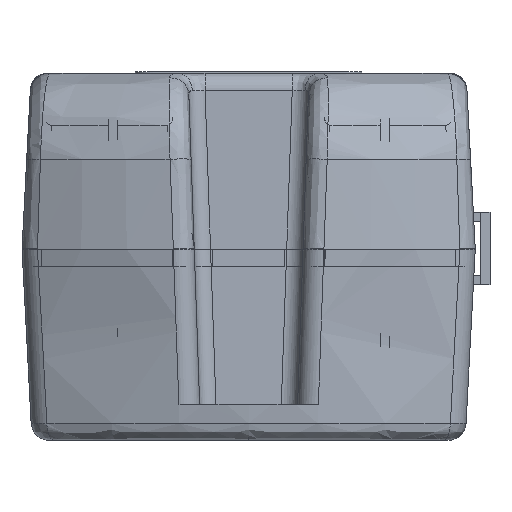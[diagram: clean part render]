
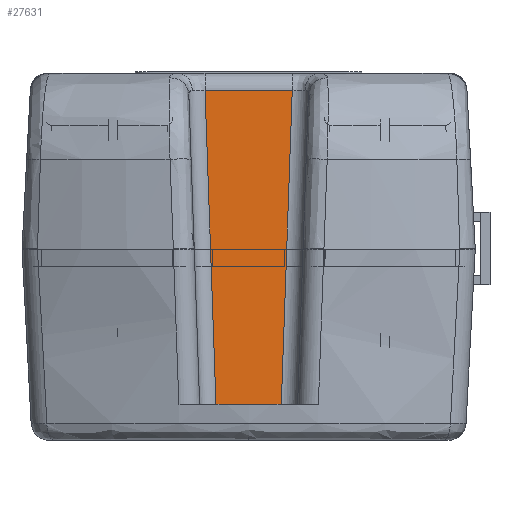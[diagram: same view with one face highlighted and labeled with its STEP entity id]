
A CAD part, left-side view. The second image highlights one B-rep face of the part: STEP entity #27631.
In plain terms, the highlighted planar face has unit normal (-0.999, 0, 0.035).
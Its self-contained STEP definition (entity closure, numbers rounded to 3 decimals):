
#6017=CARTESIAN_POINT('',(3.902,-3.601,4.));
#6025=DIRECTION('',(0.035,-0.035,0.999));
#6026=VECTOR('',#6025,34.612);
#6027=CARTESIAN_POINT('',(3.902,-3.601,4.));
#6028=LINE('',#6027,#6026);
#6050=DIRECTION('',(0.,-1.,0.));
#6051=VECTOR('',#6050,9.622);
#6052=CARTESIAN_POINT('',(5.11,4.811,38.57));
#6053=LINE('',#6052,#6051);
#6054=DIRECTION('',(0.,-1.,0.));
#6055=VECTOR('',#6054,7.203);
#6056=CARTESIAN_POINT('',(3.902,3.602,4.));
#6057=LINE('',#6056,#6055);
#6058=DIRECTION('',(0.035,0.035,0.999));
#6059=VECTOR('',#6058,34.612);
#6060=CARTESIAN_POINT('',(3.902,3.602,4.));
#6061=LINE('',#6060,#6059);
#6068=CARTESIAN_POINT('',(3.902,3.602,4.));
#18003=CARTESIAN_POINT('',(5.11,4.811,38.57));
#18004=CARTESIAN_POINT('',(5.11,-4.811,
38.57));
#18005=VERTEX_POINT('',#18003);
#18006=VERTEX_POINT('',#18004);
#19892=VERTEX_POINT('',#6017);
#19895=VERTEX_POINT('',#6068);
#27618=CARTESIAN_POINT('',(4.5,0.,21.1));
#27619=DIRECTION('',(0.999,0.,-0.035));
#27620=DIRECTION('',(-0.035,0.,-0.999));
#27621=AXIS2_PLACEMENT_3D('',#27618,#27619,#27620);
#27622=PLANE('',#27621);
#27623=ORIENTED_EDGE('',*,*,#27570,.F.);
#27625=ORIENTED_EDGE('',*,*,#27624,.F.);
#27627=ORIENTED_EDGE('',*,*,#27626,.T.);
#27628=ORIENTED_EDGE('',*,*,#27611,.T.);
#27629=EDGE_LOOP('',(#27623,#27625,#27627,#27628));
#27630=FACE_OUTER_BOUND('',#27629,.F.);
#27631=ADVANCED_FACE('',(#27630),#27622,.F.);
#27570=EDGE_CURVE('',#19892,#18006,#6028,.T.);
#27611=EDGE_CURVE('',#18005,#18006,#6053,.T.);
#27624=EDGE_CURVE('',#19895,#19892,#6057,.T.);
#27626=EDGE_CURVE('',#19895,#18005,#6061,.T.);
